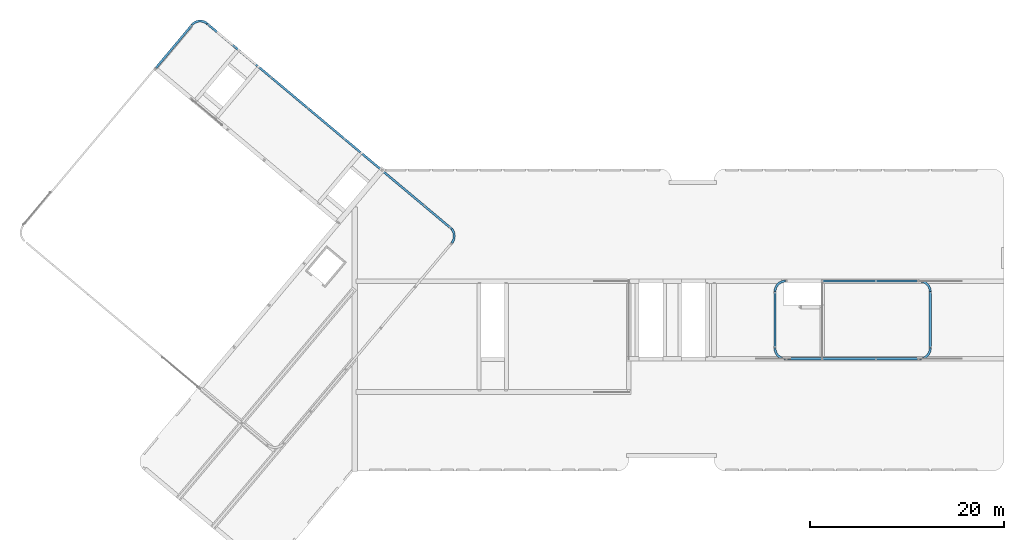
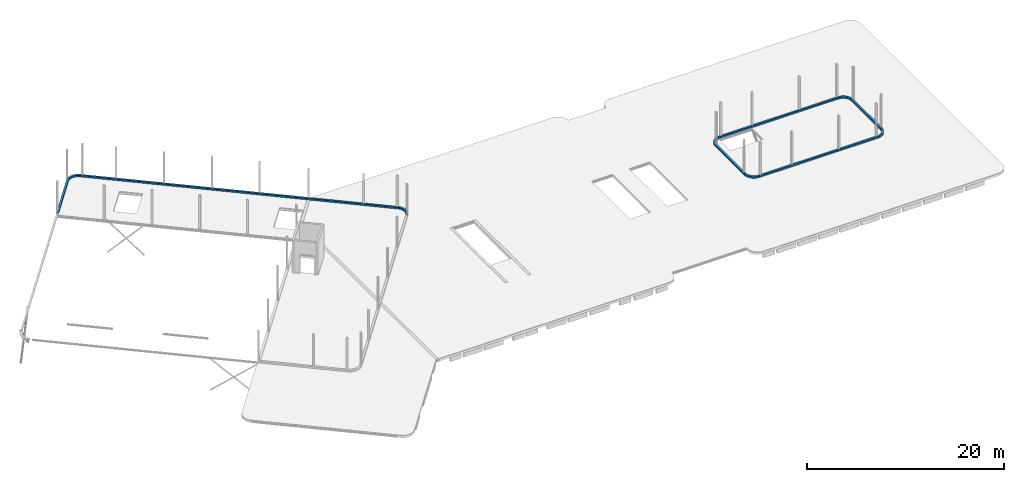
# One storey, part 10 of 11: 12 walls.
"""IFC2X3 building model written with IfcOpenShell, lengths in millimetres."""

from ifc_helpers import new_model, entity, si_unit, converted_unit, derived_unit, direction, frame, frame_2d, origin, place, context, subcontext, project, spatial, polyline, circle_curve, parameter, trimmed, segment, composite_curve, rectangle, outline, extrude, material, layer, layer_set, layer_usage, type_object, element, save


model = new_model("IFC2X3")

# Units and contexts
model_context = context("Model", 3, precision=0.01, world=origin(), true_north=direction((6.123031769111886e-17, 1.0)))
body_context = subcontext(model_context, "Body", "Model", "MODEL_VIEW")
ifc_project = project(units=[si_unit("LENGTHUNIT", "METRE", prefix="MILLI"), si_unit("AREAUNIT", "SQUARE_METRE"), si_unit("VOLUMEUNIT", "CUBIC_METRE"), derived_unit("MASSDENSITYUNIT", [(si_unit("MASSUNIT", "GRAM", prefix="KILO"), 1), (si_unit("LENGTHUNIT", "METRE"), -3)]), si_unit("MASSUNIT", "GRAM", prefix="KILO"), converted_unit("PLANEANGLEUNIT", "DEGREE", entity("IfcPlaneAngleMeasure", 0.017453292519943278), si_unit("PLANEANGLEUNIT", "RADIAN"), dimensions=[0, 0, 0, 0, 0, 0, 0])], contexts=[model_context])

# Site, building, storey
site_placement = place(None, origin())
site = spatial("IfcSite", under=ifc_project, at=site_placement, Name="Default", CompositionType="ELEMENT")
building_placement = place(site_placement, origin())
building = spatial("IfcBuilding", under=site, at=building_placement, Name="AT constructie", CompositionType="ELEMENT")
storey_placement = place(building_placement, frame((0.0, 0.0, 7728.0)))
storey = spatial("IfcBuildingStorey", under=building, at=storey_placement, Name="02 tweede verdieping", CompositionType="ELEMENT", Elevation=7728.0)

# Walls
ifc_material = material(Name="f2_beton ihwg_gen")
ifc_layer = layer(ifc_material, 220.0)
ifc_layer_set = layer_set([ifc_layer], Name="Basic Wall:NLRS_22_WA_beton opstort ihw 220_gen_AT")
ifc_layer_usage_1 = layer_usage(ifc_layer_set, "AXIS2", "POSITIVE", -110.0)
wall_type = type_object("IfcWallType", Name="NLRS_22_WA_beton opstort ihw 220_gen_AT", PredefinedType="STANDARD", material=ifc_layer_set)
wall_1_placement = place(storey_placement, frame((25912.42593305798, 57860.148222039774, -50.0), z_axis=(0.0, 0.0, 1.0), x_axis=(0.7660444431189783, -0.642787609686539, 0.0)))
element("IfcWallStandardCase", 1, at=wall_1_placement, inside=storey, type_object=wall_type, material=ifc_layer_usage_1, Name="Basic Wall:NLRS_22_WA_beton opstort ihw 220_gen_AT", ObjectType="Basic Wall:NLRS_22_WA_beton opstort ihw 220_gen_AT", context=body_context, shape_type="SweptSolid", body=[
    extrude(outline(polyline([(32971.684668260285, -110.0), (32994.83724589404, 110.0), (0.0, 110.0), (0.0, -110.0), (32971.684668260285, -110.0)])), origin(), (0.0, 0.0, 1.0), 200.0),
])
ifc_layer_usage_2 = layer_usage(ifc_layer_set, "AXIS2", "POSITIVE", -110.0)
wall_2_placement = place(storey_placement, frame((24376.715848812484, 57726.73530937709, -50.0), z_axis=(0.0, 0.0, 1.0), x_axis=(-1.0, 0.0, 0.0)))
element("IfcWallStandardCase", 2, at=wall_2_placement, inside=storey, type_object=wall_type, material=ifc_layer_usage_2, Name="Basic Wall:NLRS_22_WA_beton opstort ihw 220_gen_AT", ObjectType="Basic Wall:NLRS_22_WA_beton opstort ihw 220_gen_AT", context=body_context, shape_type="SweptSolid", body=[
    extrude(outline(composite_curve([segment(trimmed(circle_curve(frame_2d((-834.561230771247, 701.1473112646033), x_axis=(1.0, 0.0)), 1200.0), [parameter(229.96498063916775)], [parameter(319.965076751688)], True, "PARAMETER"), True, "CONTINUOUS"), segment(polyline([(84.22177558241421, -70.75798554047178), (-84.2217755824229, 70.75798554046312)]), True, "CONTINUOUS"), segment(trimmed(circle_curve(frame_2d((-834.561230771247, 701.1473112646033), x_axis=(1.0, 0.0)), 980.0), [parameter(229.96498063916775)], [parameter(319.965076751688)], True, "PARAMETER"), False, "CONTINUOUS"), segment(polyline([(-1464.9518151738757, -49.191086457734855), (-1606.4680688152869, -217.63440023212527)]), True, "CONTINUOUS")], self_intersect=False)), origin(), (0.0, 0.0, 1.0), 200.0),
])
ifc_layer_usage_3 = layer_usage(ifc_layer_set, "AXIS2", "POSITIVE", -110.0)
wall_3_placement = place(storey_placement, frame((51188.87034220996, 35220.868650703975, -50.0), z_axis=(0.0, 0.0, 1.0), x_axis=(-1.0, 0.0, 0.0)))
element("IfcWallStandardCase", 3, at=wall_3_placement, inside=storey, type_object=wall_type, material=ifc_layer_usage_3, Name="Basic Wall:NLRS_22_WA_beton opstort ihw 220_gen_AT", ObjectType="Basic Wall:NLRS_22_WA_beton opstort ihw 220_gen_AT", context=body_context, shape_type="SweptSolid", body=[
    extrude(outline(composite_curve([segment(trimmed(circle_curve(frame_2d((937.8178046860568, -712.7125923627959), x_axis=(1.0, 0.0)), 1067.9055454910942), [parameter(143.0379559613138)], [parameter(217.39268524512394)], True, "PARAMETER"), False, "CONTINUOUS"), segment(polyline([(84.52495325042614, -70.5961202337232), (-87.57914326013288, 66.5574463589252)]), True, "CONTINUOUS"), segment(trimmed(circle_curve(frame_2d((937.8178046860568, -712.7125923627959), x_axis=(1.0, 0.0)), 1287.9055454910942), [parameter(142.76628674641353)], [parameter(218.52383630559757)], True, "PARAMETER"), True, "CONTINUOUS"), segment(polyline([(-69.77395174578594, -1514.8718947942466), (89.37522582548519, -1361.2243073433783)]), True, "CONTINUOUS")], self_intersect=False)), origin(), (0.0, 0.0, 1.0), 200.0),
])
ifc_layer_usage_4 = layer_usage(ifc_layer_set, "AXIS2", "POSITIVE", -110.0)
wall_4_placement = place(storey_placement, frame((85626.87463111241, 31281.043508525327, -50.0)))
element("IfcWallStandardCase", 4, at=wall_4_placement, inside=storey, type_object=wall_type, material=ifc_layer_usage_4, Name="Basic Wall:NLRS_22_WA_beton opstort ihw 220_gen_AT", ObjectType="Basic Wall:NLRS_22_WA_beton opstort ihw 220_gen_AT", context=body_context, shape_type="SweptSolid", body=[
    extrude(rectangle(XDim=13839.999999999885, YDim=220.00000000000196, at=frame_2d((6919.999999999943, 4.973799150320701e-13), x_axis=(-1.0, 0.0))), origin(), (0.0, 0.0, 1.0), 200.0),
])
ifc_layer_usage_5 = layer_usage(ifc_layer_set, "AXIS2", "NEGATIVE", 110.0)
wall_5_placement = place(storey_placement, frame((85626.5742314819, 23261.04354991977, -50.0)))
element("IfcWallStandardCase", 5, at=wall_5_placement, inside=storey, type_object=wall_type, material=ifc_layer_usage_5, Name="Basic Wall:NLRS_22_WA_beton opstort ihw 220_gen_AT", ObjectType="Basic Wall:NLRS_22_WA_beton opstort ihw 220_gen_AT", context=body_context, shape_type="SweptSolid", body=[
    extrude(rectangle(XDim=13840.300399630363, YDim=220.00000000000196, at=frame_2d((6920.150199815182, 4.973799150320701e-13), x_axis=(-1.0, 0.0))), origin(), (0.0, 0.0, 1.0), 200.0),
])
ifc_layer_usage_6 = layer_usage(ifc_layer_set, "AXIS2", "NEGATIVE", 110.0)
wall_6_placement = place(storey_placement, frame((84536.87463111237, 30191.043508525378, -50.0), z_axis=(0.0, 0.0, 1.0), x_axis=(0.0, -1.0, 0.0)))
element("IfcWallStandardCase", 6, at=wall_6_placement, inside=storey, type_object=wall_type, material=ifc_layer_usage_6, Name="Basic Wall:NLRS_22_WA_beton opstort ihw 220_gen_AT", ObjectType="Basic Wall:NLRS_22_WA_beton opstort ihw 220_gen_AT", context=body_context, shape_type="SweptSolid", body=[
    extrude(rectangle(XDim=5840.000000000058, YDim=219.99999999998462, at=frame_2d((2920.000000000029, 0.0), x_axis=(-1.0, 0.0))), origin(), (0.0, 0.0, 1.0), 200.0),
])
ifc_layer_usage_7 = layer_usage(ifc_layer_set, "AXIS2", "NEGATIVE", 110.0)
wall_7_placement = place(storey_placement, frame((99466.87463111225, 23261.0435085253, -50.0)))
element("IfcWallStandardCase", 7, at=wall_7_placement, inside=storey, type_object=wall_type, material=ifc_layer_usage_7, Name="Basic Wall:NLRS_22_WA_beton opstort ihw 220_gen_AT", ObjectType="Basic Wall:NLRS_22_WA_beton opstort ihw 220_gen_AT", context=body_context, shape_type="SweptSolid", body=[
    extrude(outline(composite_curve([segment(trimmed(circle_curve(frame_2d((0.0, 1090.0), x_axis=(1.0, 0.0)), 980.0000000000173), [parameter(270.00000000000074)], [parameter(5.088887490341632e-13)], True, "PARAMETER"), False, "CONTINUOUS"), segment(polyline([(0.0, 110.0), (0.0, -110.0)]), True, "CONTINUOUS"), segment(trimmed(circle_curve(frame_2d((0.0, 1090.0), x_axis=(1.0, 0.0)), 1200.0000000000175), [parameter(270.00000000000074)], [parameter(5.088887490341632e-13)], True, "PARAMETER"), True, "CONTINUOUS"), segment(polyline([(1200.0, 1090.0), (980.0, 1090.0)]), True, "CONTINUOUS")], self_intersect=False)), origin(), (0.0, 0.0, 1.0), 200.0),
])
ifc_layer_usage_8 = layer_usage(ifc_layer_set, "AXIS2", "POSITIVE", -110.0)
wall_8_placement = place(storey_placement, frame((100556.8746311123, 30191.043508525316, -50.0), z_axis=(0.0, 0.0, 1.0), x_axis=(0.0, -1.0, 0.0)))
element("IfcWallStandardCase", 8, at=wall_8_placement, inside=storey, type_object=wall_type, material=ifc_layer_usage_8, Name="Basic Wall:NLRS_22_WA_beton opstort ihw 220_gen_AT", ObjectType="Basic Wall:NLRS_22_WA_beton opstort ihw 220_gen_AT", context=body_context, shape_type="SweptSolid", body=[
    extrude(rectangle(XDim=5840.000000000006, YDim=219.99999999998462, at=frame_2d((2920.000000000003, 0.0), x_axis=(-1.0, 0.0))), origin(), (0.0, 0.0, 1.0), 200.0),
])
ifc_layer_usage_9 = layer_usage(ifc_layer_set, "AXIS2", "NEGATIVE", 110.0)
wall_9_placement = place(storey_placement, frame((85626.57423148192, 23261.04354991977, -50.0), z_axis=(0.0, 0.0, 1.0), x_axis=(-1.0, 0.0, 0.0)))
element("IfcWallStandardCase", 9, at=wall_9_placement, inside=storey, type_object=wall_type, material=ifc_layer_usage_9, Name="Basic Wall:NLRS_22_WA_beton opstort ihw 220_gen_AT", ObjectType="Basic Wall:NLRS_22_WA_beton opstort ihw 220_gen_AT", context=body_context, shape_type="SweptSolid", body=[
    extrude(outline(composite_curve([segment(trimmed(circle_curve(frame_2d((-0.3003996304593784, -1089.9999586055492), x_axis=(1.0, 0.0)), 1200.0000000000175), [parameter(359.9999999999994)], [parameter(89.98420951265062)], True, "PARAMETER"), True, "CONTINUOUS"), segment(polyline([(0.030315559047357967, 109.9999958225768), (-0.030315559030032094, -109.9999958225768)]), True, "CONTINUOUS"), segment(trimmed(circle_curve(frame_2d((-0.3003996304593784, -1089.9999586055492), x_axis=(1.0, 0.0)), 980.0000000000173), [parameter(359.9999999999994)], [parameter(89.98420951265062)], True, "PARAMETER"), False, "CONTINUOUS"), segment(polyline([(979.6996003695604, -1089.9999586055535), (1199.6996003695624, -1089.9999586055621)]), True, "CONTINUOUS")], self_intersect=False)), origin(), (0.0, 0.0, 1.0), 200.0),
])
ifc_layer_usage_10 = layer_usage(ifc_layer_set, "AXIS2", "NEGATIVE", 110.0)
wall_10_placement = place(storey_placement, frame((99466.8746311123, 31281.043508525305, -50.0)))
element("IfcWallStandardCase", 10, at=wall_10_placement, inside=storey, type_object=wall_type, material=ifc_layer_usage_10, Name="Basic Wall:NLRS_22_WA_beton opstort ihw 220_gen_AT", ObjectType="Basic Wall:NLRS_22_WA_beton opstort ihw 220_gen_AT", context=body_context, shape_type="SweptSolid", body=[
    extrude(outline(composite_curve([segment(trimmed(circle_curve(frame_2d((0.0, -1090.0), x_axis=(1.0, 0.0)), 1200.0000000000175), [parameter(359.9999999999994)], [parameter(89.99999999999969)], True, "PARAMETER"), True, "CONTINUOUS"), segment(polyline([(0.0, 110.0), (0.0, -110.0)]), True, "CONTINUOUS"), segment(trimmed(circle_curve(frame_2d((0.0, -1090.0), x_axis=(1.0, 0.0)), 980.0000000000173), [parameter(359.9999999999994)], [parameter(89.99999999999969)], True, "PARAMETER"), False, "CONTINUOUS"), segment(polyline([(980.0, -1090.0), (1200.0, -1090.0)]), True, "CONTINUOUS")], self_intersect=False)), origin(), (0.0, 0.0, 1.0), 200.0),
])
ifc_layer_usage_11 = layer_usage(ifc_layer_set, "AXIS2", "NEGATIVE", 110.0)
wall_11_placement = place(storey_placement, frame((85626.8746311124, 31281.043508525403, -50.0), z_axis=(0.0, 0.0, 1.0), x_axis=(-1.0, 0.0, 0.0)))
element("IfcWallStandardCase", 11, at=wall_11_placement, inside=storey, type_object=wall_type, material=ifc_layer_usage_11, Name="Basic Wall:NLRS_22_WA_beton opstort ihw 220_gen_AT", ObjectType="Basic Wall:NLRS_22_WA_beton opstort ihw 220_gen_AT", context=body_context, shape_type="SweptSolid", body=[
    extrude(outline(composite_curve([segment(trimmed(circle_curve(frame_2d((0.0, 1090.0), x_axis=(1.0, 0.0)), 980.0000000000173), [parameter(270.000000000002)], [parameter(359.99999999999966)], True, "PARAMETER"), False, "CONTINUOUS"), segment(polyline([(0.0, 110.0), (0.0, -110.0)]), True, "CONTINUOUS"), segment(trimmed(circle_curve(frame_2d((0.0, 1090.0), x_axis=(1.0, 0.0)), 1200.0000000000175), [parameter(270.000000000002)], [parameter(359.99999999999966)], True, "PARAMETER"), True, "CONTINUOUS"), segment(polyline([(1200.0, 1090.0), (980.0, 1090.0)]), True, "CONTINUOUS")], self_intersect=False)), origin(), (0.0, 0.0, 1.0), 200.0),
])
ifc_layer_usage_12 = layer_usage(ifc_layer_set, "AXIS2", "POSITIVE", -110.0)
wall_12_placement = place(storey_placement, frame((20651.844667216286, 53286.57057061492, -50.0), z_axis=(0.0, 0.0, 1.0), x_axis=(0.6427876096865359, 0.766044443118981, 0.0)))
element("IfcWallStandardCase", 12, at=wall_12_placement, inside=storey, type_object=wall_type, material=ifc_layer_usage_12, Name="Basic Wall:NLRS_22_WA_beton opstort ihw 220_gen_AT", ObjectType="Basic Wall:NLRS_22_WA_beton opstort ihw 220_gen_AT", context=body_context, shape_type="SweptSolid", body=[
    extrude(rectangle(XDim=5795.664161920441, YDim=220.0000000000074, at=frame_2d((2897.832080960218, 1.8971491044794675e-12), x_axis=(-1.0, 0.0))), origin(), (0.0, 0.0, 1.0), 200.0),
])

save(model, "model.ifc")
